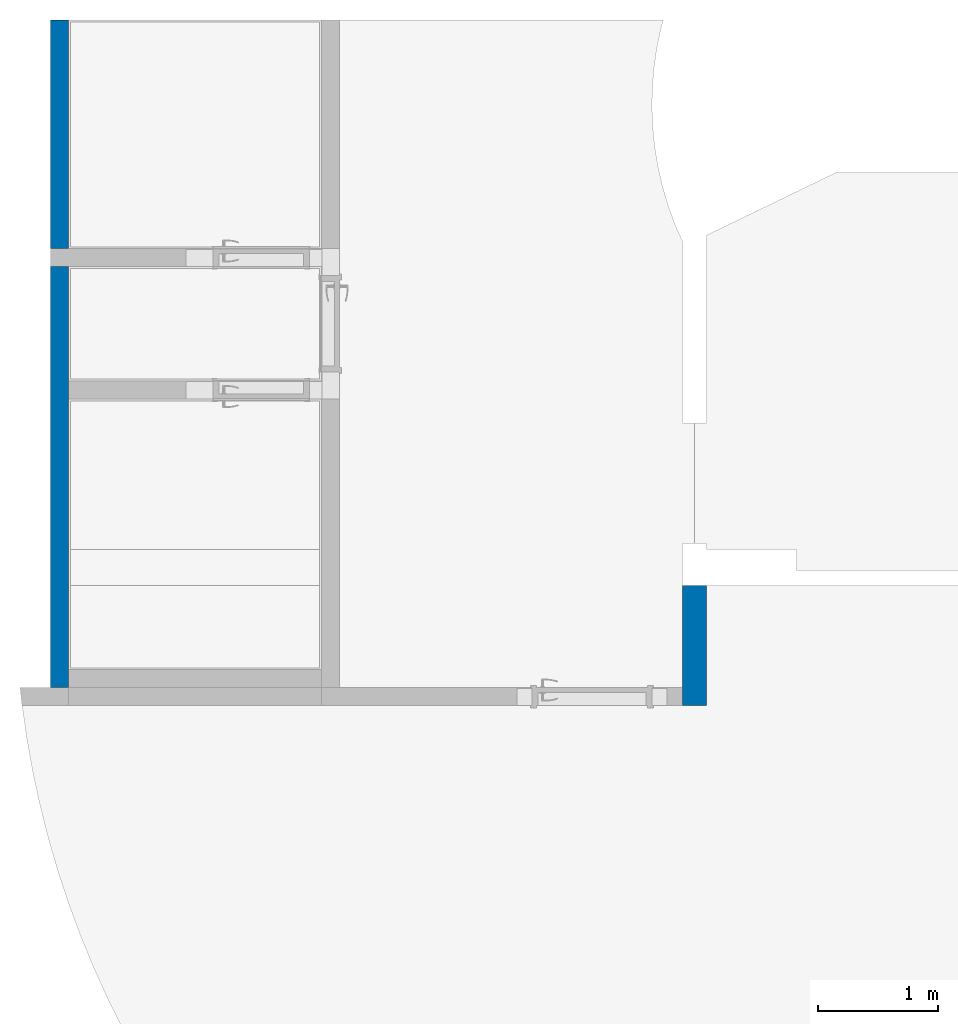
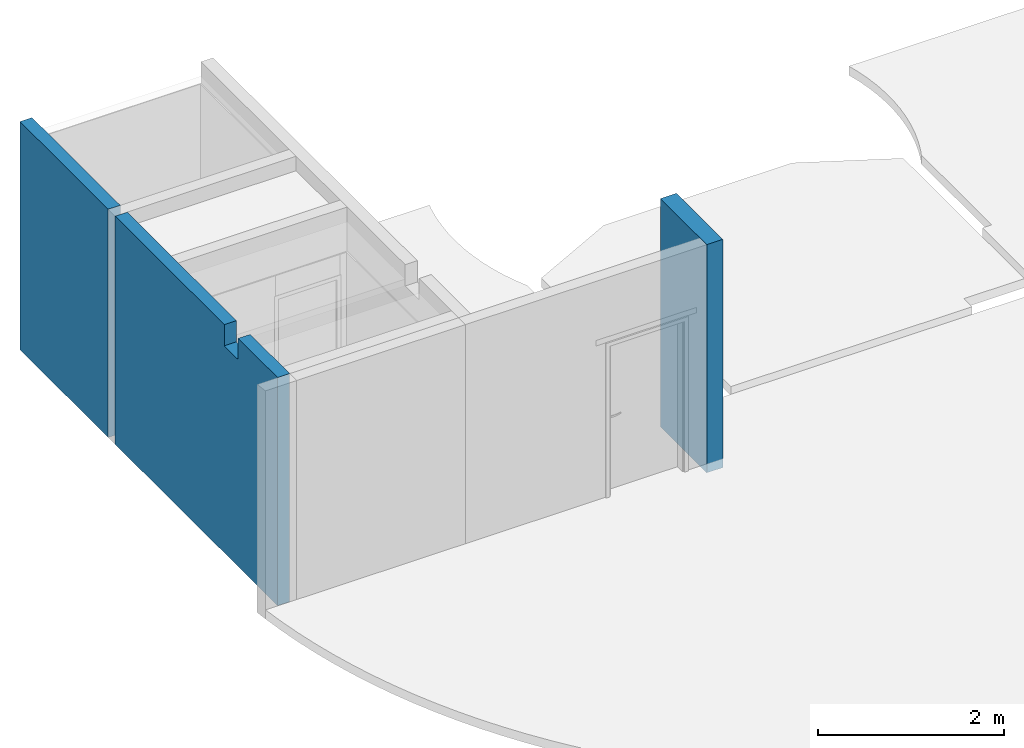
# One storey, part 7 of 17: 2 walls.
"""IFC4 building model written with IfcOpenShell, lengths in millimetres."""

from ifc_helpers import new_model, entity, si_unit, converted_unit, derived_unit, direction, frame, origin_with_axes, place, context, subcontext, project, spatial, polygons, material, constituent, constituent_set, type_object, element, save


model = new_model("IFC4")

# Units and contexts
model_context = context("Model", 3, precision=0.01, world=origin_with_axes(), true_north=direction((0.0, 1.0)))
body_context = subcontext(model_context, "Body", "Model", "MODEL_VIEW")
ifc_project = project(units=[si_unit("LENGTHUNIT", "METRE", prefix="MILLI"), si_unit("AREAUNIT", "SQUARE_METRE"), si_unit("VOLUMEUNIT", "CUBIC_METRE"), converted_unit("PLANEANGLEUNIT", "DEGREE", entity("IfcPlaneAngleMeasure", 0.0174532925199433), si_unit("PLANEANGLEUNIT", "RADIAN"), dimensions=[0, 0, 0, 0, 0, 0, 0]), converted_unit("TIMEUNIT", "Year", entity("IfcTimeMeasure", 31557600.0), si_unit("TIMEUNIT", "SECOND"), dimensions=[0, 0, 1, 0, 0, 0, 0]), si_unit("MASSUNIT", "GRAM", prefix="KILO"), si_unit("THERMODYNAMICTEMPERATUREUNIT", "DEGREE_CELSIUS"), si_unit("LUMINOUSINTENSITYUNIT", "LUMEN"), si_unit("ENERGYUNIT", "JOULE", prefix="MEGA"), derived_unit("THERMALCONDUCTANCEUNIT", [(si_unit("POWERUNIT", "WATT"), 1), (si_unit("LENGTHUNIT", "METRE"), -1), (si_unit("THERMODYNAMICTEMPERATUREUNIT", "KELVIN"), -1)]), derived_unit("SPECIFICHEATCAPACITYUNIT", [(si_unit("ENERGYUNIT", "JOULE"), 1), (si_unit("MASSUNIT", "GRAM", prefix="KILO"), -1), (si_unit("THERMODYNAMICTEMPERATUREUNIT", "KELVIN"), -1)]), derived_unit("MASSDENSITYUNIT", [(si_unit("MASSUNIT", "GRAM", prefix="KILO"), 1), (si_unit("VOLUMEUNIT", "CUBIC_METRE"), -1)])], contexts=[model_context])

# Site, building, storey
site_placement = place(None, origin_with_axes())
site = spatial("IfcSite", under=ifc_project, at=site_placement, Name="Exteriér", CompositionType="ELEMENT")
building_placement = place(site_placement, origin_with_axes())
building = spatial("IfcBuilding", under=site, at=building_placement, Name="Univerzitní lezecké centrum", CompositionType="ELEMENT")
storey_placement = place(building_placement, frame((0.0, 0.0, 3200.0), z_axis=(0.0, 0.0, 1.0), x_axis=(1.0, 0.0, 0.0)))
storey = spatial("IfcBuildingStorey", under=building, at=storey_placement, Name="2.NP", CompositionType="ELEMENT", Elevation=3200.0)

# Walls
ifc_material_1 = material(Name="Keramické tvárnice nenosné tl. 150 mm")
ifc_constituent_1 = constituent(ifc_material_1, Name="Keramické tvárnice nenosné tl. 150 mm")
ifc_constituent_set_1 = constituent_set(constituents=[ifc_constituent_1], Name="!Vnitřní keramická stěna 150 mm - nenosná*")
wall_type_1 = type_object("IfcWallType", Name="!Vnitřní keramická stěna 150 mm - nenosná* 150", PredefinedType="NOTDEFINED")
wall_1_placement = place(storey_placement, frame((-5250.148351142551, 4700.000000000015, -120.000000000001), z_axis=(0.0, 0.0, 1.0), x_axis=(0.0, -1.0, 0.0)))
element("IfcWall", 1, at=wall_1_placement, inside=storey, type_object=wall_type_1, material=ifc_constituent_set_1, Name="St07*", PredefinedType="NOTDEFINED", context=body_context, shape_type="Tessellation", body=[
    polygons([(4700.163408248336, 0.0, 3000.000099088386), (4700.163408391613, 150.0000000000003, 3000.000099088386), (2349.999999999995, 150.0000000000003, 3000.0), (2349.999999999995, 0.0, 3000.0), (4700.163408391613, 149.9999999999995, 2720.0), (4700.163408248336, 0.0, 2720.0), (5000.163408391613, 149.9999999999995, 2720.0), (5000.163408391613, 149.9999999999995, 3000.000099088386), (5849.612793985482, 149.9999999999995, 3000.0), (5849.612793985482, 149.9999999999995, 0.0), (2349.999999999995, 150.0000000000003, 0.0), (2349.999999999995, 0.0, 0.0), (5849.612793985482, 0.0, 0.0), (5849.612793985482, 0.0, 3000.0), (5000.163408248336, 0.0, 3000.000099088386), (5000.163408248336, 0.0, 2720.0)], [[[1, 2, 3, 4]], [[5, 2, 1, 6]], [[7, 8, 9, 10, 11, 3, 2, 5]], [[12, 4, 3, 11]], [[6, 1, 4, 12, 13, 14, 15, 16]], [[7, 5, 6, 16]], [[15, 8, 7, 16]], [[8, 15, 14, 9]], [[9, 14, 13, 10]], [[10, 13, 12, 11]]], closed=True),
    polygons([(2199.999999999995, 150.0000000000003, 3000.0), (299.9999999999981, 150.0000000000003, 3000.0), (299.9999999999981, 0.0, 3000.0), (2199.999999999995, 0.0, 3000.0), (2199.999999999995, 150.0000000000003, 0.0), (299.9999999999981, 150.0000000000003, 0.0), (299.9999999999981, 0.0, 0.0), (2199.999999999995, 0.0, 0.0)], [[[1, 2, 3, 4]], [[5, 6, 2, 1]], [[3, 2, 6, 7]], [[4, 3, 7, 8]], [[4, 8, 5, 1]], [[8, 7, 6, 5]]], closed=True),
])
ifc_material_2 = material(Name="Keramické tvárnice nenosné tl 200 mm")
ifc_constituent_2 = constituent(ifc_material_2, Name="Keramické tvárnice nenosné tl 200 mm")
ifc_constituent_set_2 = constituent_set(constituents=[ifc_constituent_2], Name="!Vnitřní keramická stěna 200 mm - nenosná")
wall_type_2 = type_object("IfcWallType", Name="!Vnitřní keramická stěna 200 mm - nenosná 200", PredefinedType="NOTDEFINED")
wall_2_placement = place(storey_placement, frame((199.7845246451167, -299.1634134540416, -220.0000000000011), z_axis=(0.0, 0.0, 1.0), x_axis=(1.113144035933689e-05, -0.9999999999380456, 0.0)))
element("IfcWall", 2, at=wall_2_placement, inside=storey, type_object=wall_type_2, material=ifc_constituent_set_2, Name="St06", PredefinedType="NOTDEFINED", context=body_context, shape_type="Tessellation", body=[
    polygons([(1000.449380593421, 0.0, 100.0000000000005), (850.4468333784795, 0.0, 100.0000000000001), (1.000002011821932, 0.0, 100.0000000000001), (1.000002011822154, 0.0, 3099.999999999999), (1000.449380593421, 0.0, 3100.0), (850.4468333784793, -200.0000000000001, 100.0000000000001), (1.040327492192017, -200.0000000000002, 100.0000000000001), (1000.447154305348, -199.9999999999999, 100.0000000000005), (1.040327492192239, -200.0000000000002, 3099.999999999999), (1000.447154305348, -199.9999999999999, 3100.0)], [[[1, 2, 3, 4, 5]], [[6, 7, 3, 2, 1, 8]], [[4, 3, 7, 9]], [[10, 5, 4, 9]], [[5, 10, 8, 1]], [[9, 7, 6, 8, 10]]], closed=True),
])

save(model, "model.ifc")
